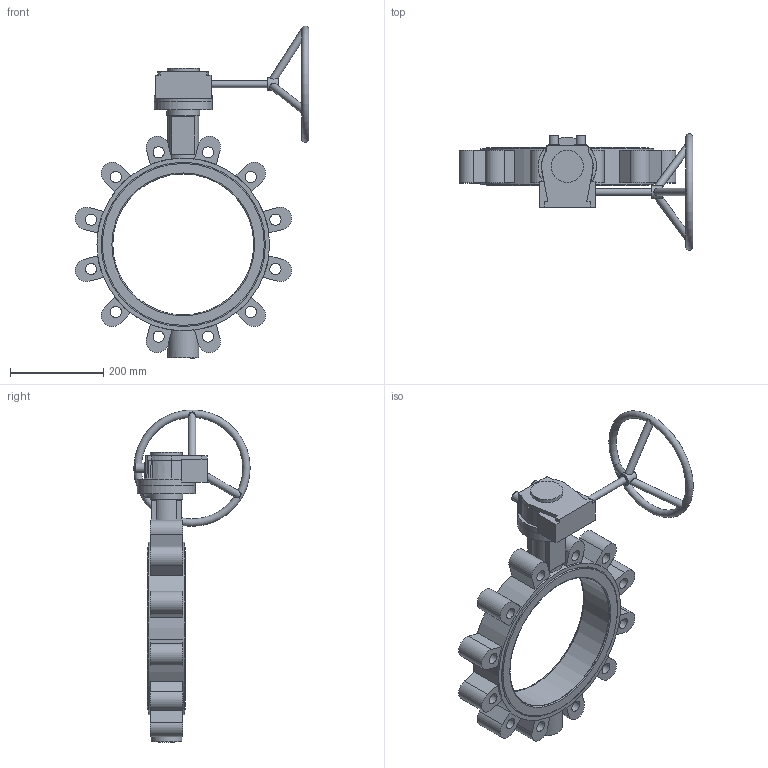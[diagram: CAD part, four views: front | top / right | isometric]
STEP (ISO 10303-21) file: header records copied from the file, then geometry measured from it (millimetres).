
FILE_DESCRIPTION (( 'STEP AP203' ), '1' );
FILE_NAME ('2502 LT型中线衬胶带销 手动头蝶阀 DN300 PN16 CD0309123.STEP', '2026-03-30T08:09:28', ( '' ), ( '' ), 'SwSTEP 2.0', 'SolidWorks 2018', '' );
FILE_SCHEMA (( 'CONFIG_CONTROL_DESIGN' ));
Length unit declared in the file: millimetre
Products named in the file (5): GALA-D300-04AZC-00; 2502 LT型中线衬胶带销 手动头蝶阀 DN300 PN16 CD0309123; GALA-D300-01LCN-00; 内六角螺塞-M42x1.5; G50蚾饜 潠趙111
Assembly tree (4 placements, depth 2):
  2502 LT型中线衬胶带销 手动头蝶阀 DN300 PN16 CD0309123
    GALA-D300-04AZC-00
    内六角螺塞-M42x1.5
    GALA-D300-01LCN-00
    G50蚾饜 潠趙111
Bounding box: 502.55 x 249.98 x 713.24 mm (x, y, z)
Volume: 6441481.9 mm3; surface area: 882963.6 mm2
Topology: 4 solids, 5 shells, 251 faces, 622 edges, 403 vertices
Faces by surface type: plane 146, cylinder 74, cone 15, bspline 10, torus 6
Full cylindrical faces by diameter (mm): 12 x4, 15 x1, 16 x3, 20 x2, 24 x12, 25.2 x1, 27 x1, 42 x1, 49 x1, 66 x2, 69 x1, 70 x1, 124.95 x1, 125 x1, 302.892 x1, 313 x2, 348 x2, 353 x2, 371 x1
Entity records: 10009 total; most frequent: CARTESIAN_POINT 3879, DIRECTION 1126, ORIENTED_EDGE 1106, EDGE_CURVE 553, AXIS2_PLACEMENT_3D 431, VERTEX_POINT 386, EDGE_LOOP 365, FACE_OUTER_BOUND 293
